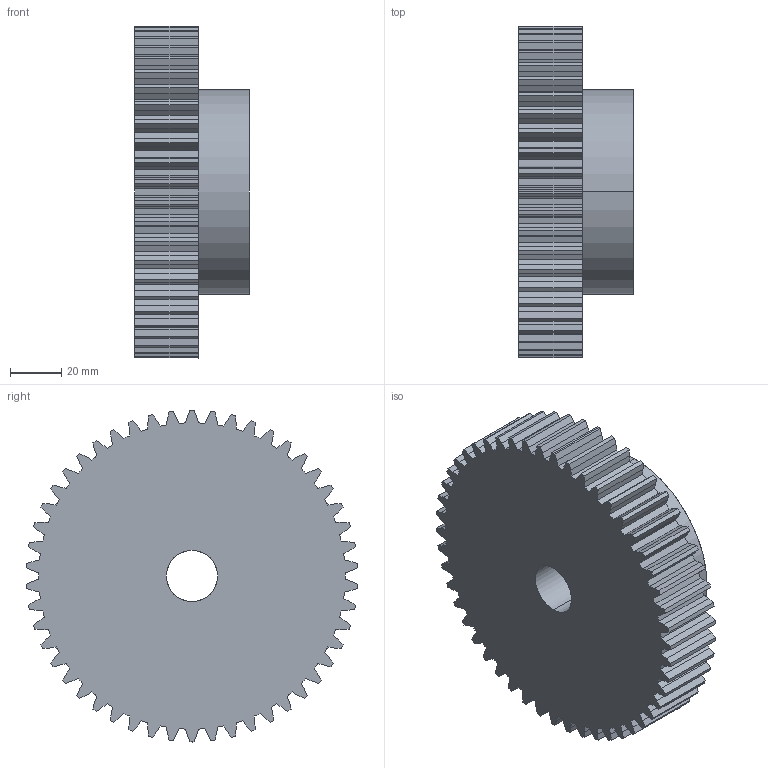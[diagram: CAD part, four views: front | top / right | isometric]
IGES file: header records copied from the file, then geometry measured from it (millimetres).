
Start section: SolidWorks IGES file using analytic representation for surfaces
Global section: file name: C:\Users\Honza\Desktop\Matis (Hotove)\Èelní ozubená kola\PM\MODUL 2,5\PM 29050.IGS; native system: SolidWorks 2010; preprocessor: SolidWorks 2010; author: Honza; date: 130925.151417; units: millimetre
Bounding box: 45 x 129.84 x 130 mm (x, y, z)
Surface area: 50097 mm2 (no closed solid volume)
Topology: 0 solids, 0 shells, 308 faces, 2040 edges, 2040 vertices
Faces by surface type: bspline 203, revolution 105
